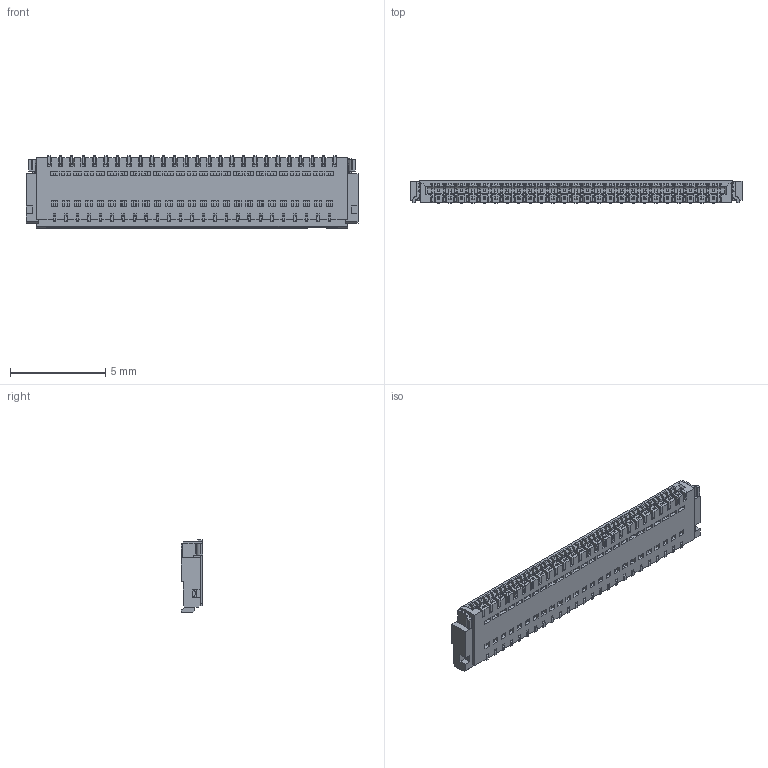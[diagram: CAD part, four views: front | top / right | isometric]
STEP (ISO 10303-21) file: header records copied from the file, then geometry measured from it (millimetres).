
FILE_DESCRIPTION((''),'2;1');
FILE_NAME('5025985193','2014-04-25T',('me'),(''),'PRO/ENGINEER BY PARAMETRIC TECHNOLOGY CORPORATION, 2011490','PRO/ENGINEER BY PARAMETRIC TECHNOLOGY CORPORATION, 2011490','');
FILE_SCHEMA(('CONFIG_CONTROL_DESIGN'));
Products named in the file (1): 5025985193
Bounding box: 17.4 x 1.15 x 3.8 mm (x, y, z)
Volume: 44.2 mm3; surface area: 540.2 mm2
Topology: 1 solids, 1 shells, 5688 faces, 18616 edges, 12207 vertices
Faces by surface type: plane 4840, cylinder 848
Entity records: 201858 total; most frequent: ORIENTED_EDGE 36804, CARTESIAN_POINT 36296, DIRECTION 31756, EDGE_CURVE 18402, VECTOR 16854, LINE 16854, VERTEX_POINT 11991, AXIS2_PLACEMENT_3D 7451
